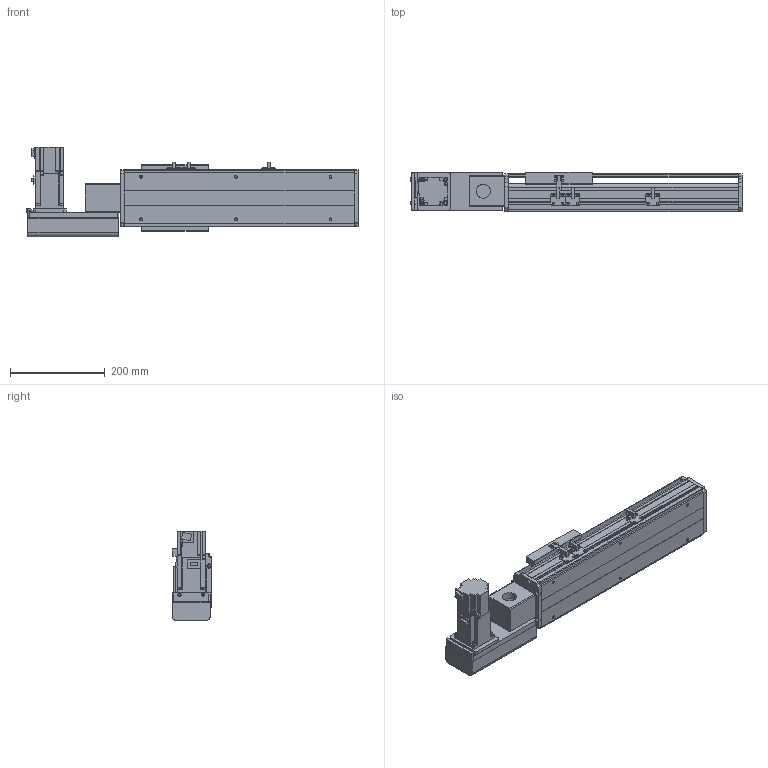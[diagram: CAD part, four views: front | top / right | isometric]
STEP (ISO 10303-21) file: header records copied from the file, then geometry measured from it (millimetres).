
FILE_DESCRIPTION( ( 'STEP AP214' ), '1' );
FILE_NAME( 'x:/temp/worker_26/temp/exporttempdir_3776_53_Ez0oS/format_0/PBS120-P40-S200-L-T40-C1-N(0).stp', '2022-06-05T00:23:56', ( 'License CC BY-ND 4.0' ), ( 'CADENAS' ), ' ', 'PARTsolutions', ' ' );
FILE_SCHEMA( ( 'AUTOMOTIVE_DESIGN { 1 0 10303 214 1 1 1 1 }' ) );
Length unit declared in the file: millimetre
Products named in the file (7): PBS120-P40-S200-L-T40-C1-N(0); _PBS120-S200()_body; _PBS120T-L_motors; _T40-p1; _PBS120_sliser; _PBS120_plant; _PBS120_sensor
Assembly tree (8 placements, depth 2):
  PBS120-P40-S200-L-T40-C1-N(0)
    _PBS120-S200()_body
    _PBS120T-L_motors
    _T40-p1
    _PBS120_sliser
    _PBS120_plant
    _PBS120_sensor  x3
Bounding box: 701 x 83 x 189.7 mm (x, y, z)
Volume: 3357440.5 mm3; surface area: 589124.7 mm2
Topology: 8 solids, 8 shells, 798 faces, 2106 edges, 1357 vertices
Faces by surface type: plane 539, cylinder 219, cone 38, torus 2
Full cylindrical faces by diameter (mm): 2.459 x6, 3.242 x4, 4 x2, 4.134 x4, 4.5 x10, 4.917 x10, 5.5 x11, 6 x2, 6.6 x1, 7 x2, 8.5 x4, 9 x4, 12 x1, 14 x1, 30 x2, 40 x1, 50 x2
Entity records: 26484 total; most frequent: DIRECTION 3620, CARTESIAN_POINT 3587, ORIENTED_EDGE 3442, EDGE_CURVE 1721, LINE 1228, VECTOR 1228, AXIS2_PLACEMENT_3D 1196, VERTEX_POINT 1163
